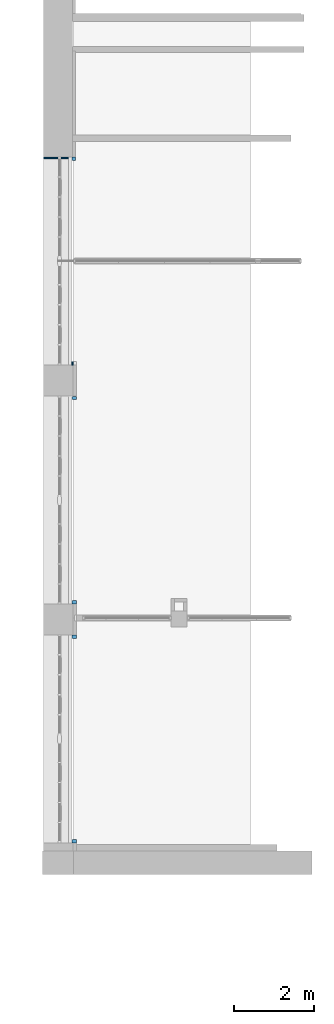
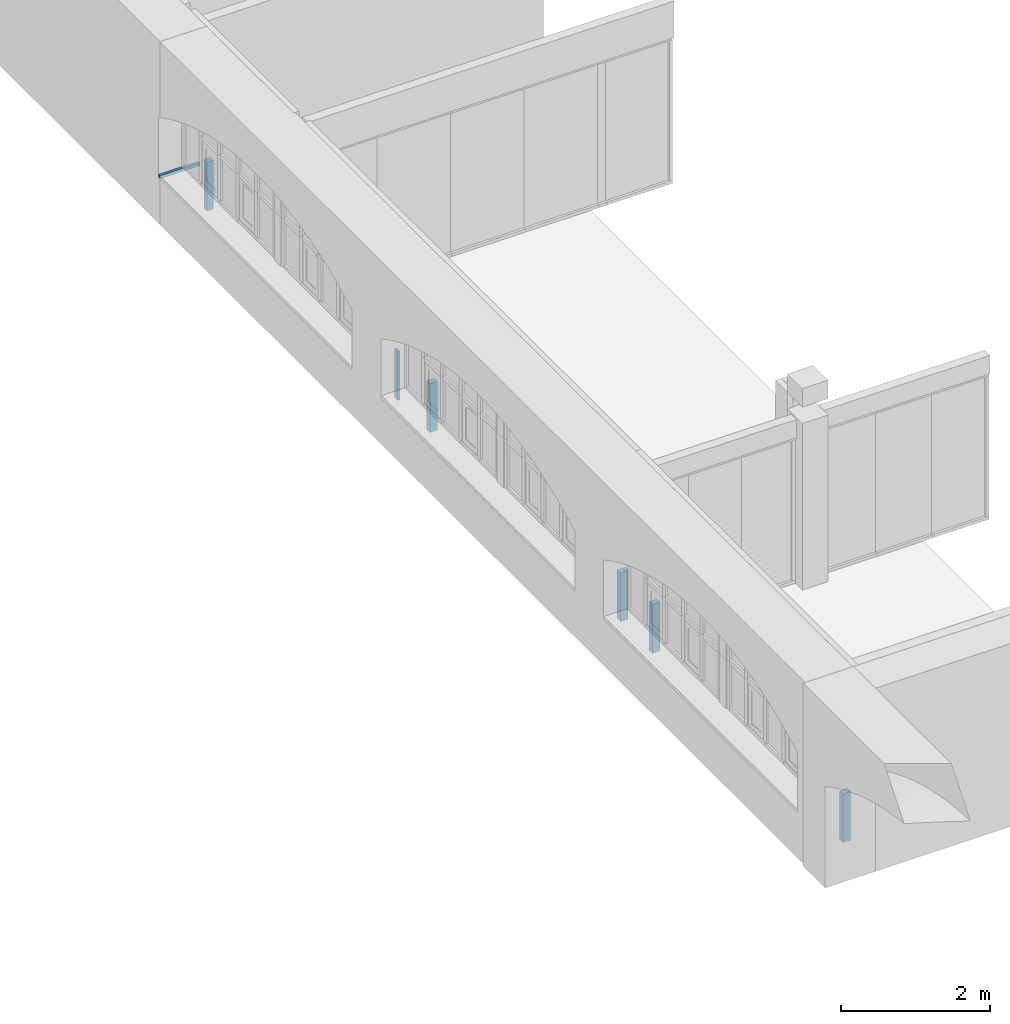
# One storey, part 30 of 32: 7 walls.
"""IFC2X3 building model written with IfcOpenShell, lengths in millimetres."""

from ifc_helpers import new_model, entity, si_unit, converted_unit, derived_unit, direction, frame, frame_2d, origin, place, context, subcontext, project, spatial, rectangle, extrude, material, layer, layer_set, layer_usage, type_object, element, save


model = new_model("IFC2X3")

# Units and contexts
model_context = context("Model", 3, precision=0.01, world=origin(), true_north=direction((6.123031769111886e-17, 1.0)))
body_context = subcontext(model_context, "Body", "Model", "MODEL_VIEW")
ifc_project = project(units=[si_unit("LENGTHUNIT", "METRE", prefix="MILLI"), si_unit("AREAUNIT", "SQUARE_METRE"), si_unit("VOLUMEUNIT", "CUBIC_METRE"), converted_unit("PLANEANGLEUNIT", "DEGREE", entity("IfcPlaneAngleMeasure", 0.017453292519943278), si_unit("PLANEANGLEUNIT", "RADIAN"), dimensions=[0, 0, 0, 0, 0, 0, 0]), si_unit("MASSUNIT", "GRAM", prefix="KILO"), derived_unit("MASSDENSITYUNIT", [(si_unit("MASSUNIT", "GRAM", prefix="KILO"), 1), (si_unit("LENGTHUNIT", "METRE"), -3)]), derived_unit("IONCONCENTRATIONUNIT", [(si_unit("MASSUNIT", "GRAM", prefix="KILO"), 1), (si_unit("LENGTHUNIT", "METRE"), -3)]), derived_unit("MOMENTOFINERTIAUNIT", [(si_unit("LENGTHUNIT", "METRE"), 4)]), si_unit("TIMEUNIT", "SECOND"), si_unit("FREQUENCYUNIT", "HERTZ"), si_unit("THERMODYNAMICTEMPERATUREUNIT", "DEGREE_CELSIUS"), derived_unit("THERMALTRANSMITTANCEUNIT", [(si_unit("MASSUNIT", "GRAM", prefix="KILO"), 1), (si_unit("THERMODYNAMICTEMPERATUREUNIT", "KELVIN"), -1), (si_unit("TIMEUNIT", "SECOND"), -3)]), derived_unit("THERMALCONDUCTANCEUNIT", [(si_unit("MASSUNIT", "GRAM", prefix="KILO"), 1), (si_unit("THERMODYNAMICTEMPERATUREUNIT", "KELVIN"), -1), (si_unit("TIMEUNIT", "SECOND"), -3), (si_unit("LENGTHUNIT", "METRE"), 1)]), derived_unit("VOLUMETRICFLOWRATEUNIT", [(si_unit("LENGTHUNIT", "METRE", prefix="DECI"), 3), (si_unit("TIMEUNIT", "SECOND"), -1)]), derived_unit("MASSFLOWRATEUNIT", [(si_unit("MASSUNIT", "GRAM", prefix="KILO"), 1), (si_unit("TIMEUNIT", "SECOND"), -1)]), derived_unit("ROTATIONALFREQUENCYUNIT", [(si_unit("TIMEUNIT", "SECOND"), -1)]), si_unit("ELECTRICCURRENTUNIT", "AMPERE"), si_unit("ELECTRICVOLTAGEUNIT", "VOLT"), si_unit("POWERUNIT", "WATT"), si_unit("FORCEUNIT", "NEWTON", prefix="KILO"), si_unit("ILLUMINANCEUNIT", "LUX"), si_unit("LUMINOUSFLUXUNIT", "LUMEN"), si_unit("LUMINOUSINTENSITYUNIT", "CANDELA"), si_unit("ENERGYUNIT", "JOULE"), derived_unit("USERDEFINED", [(si_unit("MASSUNIT", "GRAM", prefix="KILO"), -1), (si_unit("LENGTHUNIT", "METRE"), -2), (si_unit("TIMEUNIT", "SECOND"), 3), (si_unit("LUMINOUSFLUXUNIT", "LUMEN"), 1)]), derived_unit("USERDEFINED", [(si_unit("MASSUNIT", "GRAM", prefix="KILO"), 1), (si_unit("TIMEUNIT", "SECOND"), -3), (si_unit("LENGTHUNIT", "METRE"), 3), (si_unit("ELECTRICCURRENTUNIT", "AMPERE"), -2)]), derived_unit("SOUNDPOWERUNIT", [(si_unit("MASSUNIT", "GRAM", prefix="KILO"), 1), (si_unit("TIMEUNIT", "SECOND"), -3), (si_unit("LENGTHUNIT", "METRE"), 2)]), derived_unit("SOUNDPRESSUREUNIT", [(si_unit("MASSUNIT", "GRAM", prefix="KILO"), 1), (si_unit("LENGTHUNIT", "METRE"), -1), (si_unit("TIMEUNIT", "SECOND"), -2)]), derived_unit("LINEARVELOCITYUNIT", [(si_unit("LENGTHUNIT", "METRE"), 1), (si_unit("TIMEUNIT", "SECOND"), -1)]), si_unit("PRESSUREUNIT", "PASCAL"), derived_unit("USERDEFINED", [(si_unit("MASSUNIT", "GRAM", prefix="KILO"), 1), (si_unit("LENGTHUNIT", "METRE"), -2), (si_unit("TIMEUNIT", "SECOND"), -2)]), derived_unit("LINEARFORCEUNIT", [(si_unit("MASSUNIT", "GRAM", prefix="KILO"), 1), (si_unit("TIMEUNIT", "SECOND"), -2)]), derived_unit("PLANARFORCEUNIT", [(si_unit("MASSUNIT", "GRAM", prefix="KILO"), 1), (si_unit("LENGTHUNIT", "METRE"), -1), (si_unit("TIMEUNIT", "SECOND"), -2)]), derived_unit("SPECIFICHEATCAPACITYUNIT", [(si_unit("THERMODYNAMICTEMPERATUREUNIT", "KELVIN"), -1), (si_unit("LENGTHUNIT", "METRE"), 2), (si_unit("TIMEUNIT", "SECOND"), -2)]), derived_unit("HEATFLUXDENSITYUNIT", [(si_unit("MASSUNIT", "GRAM", prefix="KILO"), 1), (si_unit("TIMEUNIT", "SECOND"), -3)]), derived_unit("HEATINGVALUEUNIT", [(si_unit("LENGTHUNIT", "METRE"), 2), (si_unit("TIMEUNIT", "SECOND"), -2)]), derived_unit("VAPORPERMEABILITYUNIT", [(si_unit("LENGTHUNIT", "METRE"), -1), (si_unit("TIMEUNIT", "SECOND"), 1)]), derived_unit("DYNAMICVISCOSITYUNIT", [(si_unit("MASSUNIT", "GRAM", prefix="KILO"), 1), (si_unit("TIMEUNIT", "SECOND"), -1), (si_unit("LENGTHUNIT", "METRE"), -1)]), derived_unit("THERMALEXPANSIONCOEFFICIENTUNIT", [(si_unit("THERMODYNAMICTEMPERATUREUNIT", "KELVIN"), -1)]), derived_unit("MODULUSOFELASTICITYUNIT", [(si_unit("MASSUNIT", "GRAM", prefix="KILO"), 1), (si_unit("LENGTHUNIT", "METRE"), -1), (si_unit("TIMEUNIT", "SECOND"), -2)]), derived_unit("ISOTHERMALMOISTURECAPACITYUNIT", [(si_unit("MASSUNIT", "GRAM", prefix="KILO"), -1), (si_unit("LENGTHUNIT", "METRE"), 3)]), derived_unit("MOISTUREDIFFUSIVITYUNIT", [(si_unit("TIMEUNIT", "SECOND"), -1), (si_unit("LENGTHUNIT", "METRE"), 2)]), derived_unit("MASSPERLENGTHUNIT", [(si_unit("MASSUNIT", "GRAM", prefix="KILO"), 1), (si_unit("LENGTHUNIT", "METRE"), -1)]), derived_unit("THERMALRESISTANCEUNIT", [(si_unit("MASSUNIT", "GRAM", prefix="KILO"), -1), (si_unit("TIMEUNIT", "SECOND"), 3), (si_unit("THERMODYNAMICTEMPERATUREUNIT", "KELVIN"), 1)]), derived_unit("ACCELERATIONUNIT", [(si_unit("LENGTHUNIT", "METRE"), 1), (si_unit("TIMEUNIT", "SECOND"), -2)]), derived_unit("ANGULARVELOCITYUNIT", [(si_unit("TIMEUNIT", "SECOND"), -1), (si_unit("PLANEANGLEUNIT", "RADIAN"), 1)]), derived_unit("LINEARSTIFFNESSUNIT", [(si_unit("MASSUNIT", "GRAM", prefix="KILO"), 1), (si_unit("TIMEUNIT", "SECOND"), -2)]), derived_unit("WARPINGCONSTANTUNIT", [(si_unit("LENGTHUNIT", "METRE"), 6)]), derived_unit("LINEARMOMENTUNIT", [(si_unit("MASSUNIT", "GRAM", prefix="KILO"), 1), (si_unit("LENGTHUNIT", "METRE"), 1), (si_unit("TIMEUNIT", "SECOND"), -2)]), derived_unit("TORQUEUNIT", [(si_unit("MASSUNIT", "GRAM", prefix="KILO"), 1), (si_unit("LENGTHUNIT", "METRE"), 2), (si_unit("TIMEUNIT", "SECOND"), -2)])], contexts=[model_context])

# Site, building, storey
site_placement = place(None, origin())
site = spatial("IfcSite", under=ifc_project, at=site_placement, Name="Default", CompositionType="ELEMENT")
building_placement = place(site_placement, origin())
building = spatial("IfcBuilding", under=site, at=building_placement, Name="Eesti Rahvusraamatukogu hoone renoveerimise projekteerimistööd", CompositionType="ELEMENT")
storey_placement = place(building_placement, frame((0.0, 0.0, 4950.000000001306)))
storey = spatial("IfcBuildingStorey", under=building, at=storey_placement, Name="2. korrus", CompositionType="ELEMENT", Elevation=4950.000000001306)

# Walls
ifc_material_1 = material(Name="ol. olev materjal")
ifc_layer_1 = layer(ifc_material_1, 720.0)
ifc_layer_set_1 = layer_set([ifc_layer_1], Name="Basic Wall:ol. olev - 720mm")
ifc_layer_usage_1 = layer_usage(ifc_layer_set_1, "AXIS2", "NEGATIVE", 360.0)
wall_type_1 = type_object("IfcWallType", Name="Basic Wall:ol. olev - 720mm", PredefinedType="STANDARD", material=ifc_layer_set_1)
wall_1_placement = place(storey_placement, frame((-36420.0, 23948.695591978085, 750.0), z_axis=(0.0, 0.0, 1.0), x_axis=(0.0, -1.0, 0.0)))
element("IfcWallStandardCase", 1, at=wall_1_placement, inside=storey, type_object=wall_type_1, material=ifc_layer_usage_1, Name="Basic Wall:ol. olev - 720mm", ObjectType="Basic Wall:ol. olev - 720mm", context=body_context, shape_type="SweptSolid", body=[
    extrude(rectangle(XDim=620.487054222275, YDim=42.250000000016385, at=frame_2d((0.0, -2.1653789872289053e-12), x_axis=(1.0, 0.0))), frame((21.125000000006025, -49.75647288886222, 0.0), z_axis=(0.0, 0.0, 1.0), x_axis=(0.0, 1.0, 0.0)), (0.0, 0.0, 1.0), 49.99999999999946),
])
ifc_material_2 = material(Name="EST. Soojustus.PIR_Powerwall Pro")
ifc_layer_2 = layer(ifc_material_2, 30.0)
ifc_material_3 = material(Name="EST. Metall. Alumiinium. Mütsprofiil.")
ifc_layer_3 = layer(ifc_material_3, 42.0)
ifc_material_4 = material(Name="EST. Ehitusplaat. Kipsplaat")
ifc_layer_4 = layer(ifc_material_4, 12.5)
ifc_layer_set_2 = layer_set([ifc_layer_2, ifc_layer_3, ifc_layer_4], Name="Basic Wall:VS-03.1 - soojustus")
ifc_layer_usage_2 = layer_usage(ifc_layer_set_2, "AXIS2", "POSITIVE", -42.25000000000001)
wall_type_2 = type_object("IfcWallType", Name="Basic Wall:VS-03.1 - soojustus", PredefinedType="STANDARD", material=ifc_layer_set_2)
wall_2_placement = place(storey_placement, frame((-36075.01294577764, 18790.945591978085, 0.0)))
element("IfcWallStandardCase", 2, at=wall_2_placement, inside=storey, type_object=wall_type_2, material=ifc_layer_usage_2, Name="Basic Wall:VS-03.1 - soojustus", ObjectType="Basic Wall:VS-03.1 - soojustus", context=body_context, shape_type="SweptSolid", body=[
    extrude(rectangle(XDim=35.012945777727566, YDim=84.49999999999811, at=frame_2d((17.506472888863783, 0.0), x_axis=(-1.0, 0.0))), origin(), (0.0, 0.0, 1.0), 800.0000000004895),
])
ifc_layer_usage_3 = layer_usage(ifc_layer_set_2, "AXIS2", "NEGATIVE", 42.25000000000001)
wall_3_placement = place(storey_placement, frame((-36075.01294577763, 23906.445591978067, 0.0)))
element("IfcWallStandardCase", 3, at=wall_3_placement, inside=storey, type_object=wall_type_2, material=ifc_layer_usage_3, Name="Basic Wall:VS-03.1 - soojustus", ObjectType="Basic Wall:VS-03.1 - soojustus", context=body_context, shape_type="SweptSolid", body=[
    extrude(rectangle(XDim=98.48773277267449, YDim=84.49999999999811, at=frame_2d((49.243866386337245, 0.0), x_axis=(-1.0, 0.0))), origin(), (0.0, 0.0, 1.0), 800.0000000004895),
])
ifc_layer_usage_4 = layer_usage(ifc_layer_set_2, "AXIS2", "NEGATIVE", 42.25000000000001)
wall_4_placement = place(storey_placement, frame((-36075.01294577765, 17925.4455919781, 0.0)))
element("IfcWallStandardCase", 4, at=wall_4_placement, inside=storey, type_object=wall_type_2, material=ifc_layer_usage_4, Name="Basic Wall:VS-03.1 - soojustus", ObjectType="Basic Wall:VS-03.1 - soojustus", context=body_context, shape_type="SweptSolid", body=[
    extrude(rectangle(XDim=117.74999999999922, YDim=84.49999999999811, at=frame_2d((58.87499999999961, 0.0), x_axis=(-1.0, 0.0))), origin(), (0.0, 0.0, 1.0), 800.0000000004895),
])
ifc_layer_usage_5 = layer_usage(ifc_layer_set_2, "AXIS2", "NEGATIVE", 42.25000000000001)
wall_5_placement = place(storey_placement, frame((-35955.49999999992, 12811.945591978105, 0.0), z_axis=(0.0, 0.0, 1.0), x_axis=(-1.0, 0.0, 0.0)))
element("IfcWallStandardCase", 5, at=wall_5_placement, inside=storey, type_object=wall_type_2, material=ifc_layer_usage_5, Name="Basic Wall:VS-03.1 - soojustus", ObjectType="Basic Wall:VS-03.1 - soojustus", context=body_context, shape_type="SweptSolid", body=[
    extrude(rectangle(XDim=119.51294577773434, YDim=84.49999999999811, at=frame_2d((59.75647288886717, 0.0), x_axis=(-1.0, 0.0))), origin(), (0.0, 0.0, 1.0), 800.0000000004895),
])
ifc_layer_usage_6 = layer_usage(ifc_layer_set_2, "AXIS2", "NEGATIVE", 42.25000000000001)
wall_6_placement = place(storey_placement, frame((-36075.01294577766, 11954.349999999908, 0.0)))
element("IfcWallStandardCase", 6, at=wall_6_placement, inside=storey, type_object=wall_type_2, material=ifc_layer_usage_6, Name="Basic Wall:VS-03.1 - soojustus", ObjectType="Basic Wall:VS-03.1 - soojustus", context=body_context, shape_type="SweptSolid", body=[
    extrude(rectangle(XDim=119.51294577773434, YDim=84.49999999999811, at=frame_2d((59.75647288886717, 0.0), x_axis=(-1.0, 0.0))), origin(), (0.0, 0.0, 1.0), 800.0000000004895),
])
ifc_layer_usage_7 = layer_usage(ifc_layer_set_2, "AXIS2", "NEGATIVE", 42.25000000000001)
wall_7_placement = place(storey_placement, frame((-35955.49999999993, 6838.84999999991, 0.0), z_axis=(0.0, 0.0, 1.0), x_axis=(-1.0, 0.0, 0.0)))
element("IfcWallStandardCase", 7, at=wall_7_placement, inside=storey, type_object=wall_type_2, material=ifc_layer_usage_7, Name="Basic Wall:VS-03.1 - soojustus", ObjectType="Basic Wall:VS-03.1 - soojustus", context=body_context, shape_type="SweptSolid", body=[
    extrude(rectangle(XDim=119.51294577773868, YDim=84.50000000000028, at=frame_2d((59.75647288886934, 0.0), x_axis=(-1.0, 0.0))), origin(), (0.0, 0.0, 1.0), 800.0000000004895),
])

save(model, "model.ifc")
